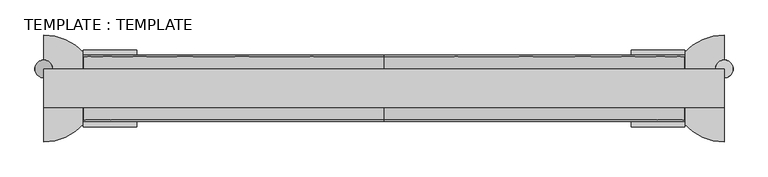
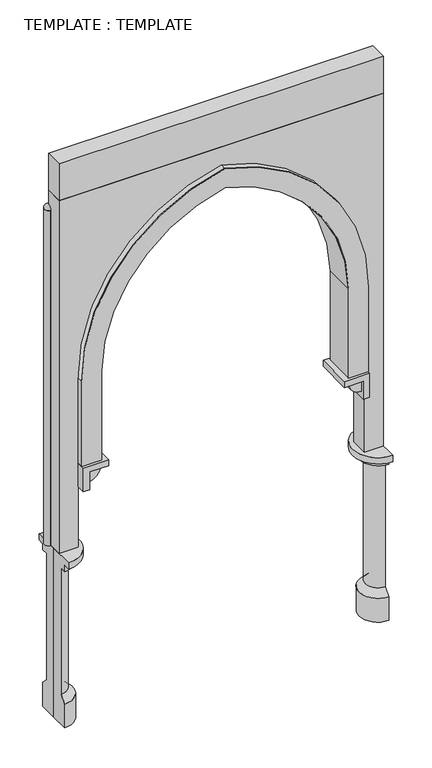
"""IFC4 building model written with IfcOpenShell, lengths in millimetres: plate geometry, TEMPLATE : TEMPLATE."""

from ifc_helpers import new_model, si_unit, point, frame, frame_2d, origin, place, context, project, spatial, polyline, circle_curve, ellipse_curve, trimmed, segment, composite_curve, outline, extrude, source, transform, mapped, element, save
from ifc_brep_helpers import plane_surface, cylinder_surface, revolved_surface, advanced_brep


def template_template_90c3116e(model_context):
    return source(origin(), model_context, "Body", "SolidModel", [
        extrude(outline(polyline([(1250.0, -71.2450521), (-1250.0, -71.2450521), (-1250.0, 71.2450521), (1250.0, 71.2450521), (1250.0, -71.2450521)])), frame((0.0, 0.0, 4250.0), z_axis=(0.0, 0.0, 1.0), x_axis=(1.0, 0.0, 0.0)), (0.0, 0.0, 1.0), 300.0),
        advanced_brep(
        [(-1250.0, 38.7797743, 4103.90625), (-1250.0, 103.7103299, 4103.90625)],
        [
            (0, 1),
            (1, 0, circle_curve(frame((-1250.0, 71.2450521, 4103.90625), z_axis=(0.0, 0.0, -1.0), x_axis=(-1.0, 0.0, 0.0)), 32.4652778)),
            (0, 1, circle_curve(frame((-1250.0, 71.2450521, 4103.90625), z_axis=(0.0, 0.0, -1.0), x_axis=(1.0, 0.0, 0.0)), 32.4652778)),
        ],
        [
            plane_surface(frame((-1250.0, -122.2362565, 4103.90625), z_axis=(0.0, 0.0, -1.0), x_axis=(1.0, 0.0, 0.0))),
            plane_surface(frame((-1250.0, -122.2362565, 4103.90625), z_axis=(0.0, 0.0, -1.0), x_axis=(-1.0, 0.0, 0.0))),
            revolved_surface(trimmed(ellipse_curve(frame((-1250.0, 71.2450521, 4103.90625), z_axis=(0.0, 0.0, 1.0), x_axis=(-1.0, 0.0, 0.0)), 32.4652778, 32.4652778), [point((-1250.0, 38.7797743, 4103.90625))], [point((-1250.0, 103.7103299, 4103.90625))], True, "CARTESIAN"), (-1250.0, -122.2362565, 4103.90625), (0.0, 1.0, 0.0)),
        ],
        [
            (0, [[1, 2]]),
            (1, [[3, -1]]),
            (2, [[-2, -3]]),
        ],
    ),
        extrude(outline(composite_curve([segment(trimmed(circle_curve(frame_2d((-1250.0, 71.2450521)), 32.4652778), [point((-1250.0, 103.7103299))], [point((-1250.0, 38.7797743))], False, "CARTESIAN"), True, "CONTINUOUS"), segment(trimmed(circle_curve(frame_2d((-1250.0, 71.2450521)), 32.4652778), [point((-1250.0, 38.7797743))], [point((-1250.0, 103.7103299))], False, "CARTESIAN"), True, "CONTINUOUS")], self_intersect=False)), frame((0.0, 0.0, 1375.0), z_axis=(0.0, 0.0, 1.0), x_axis=(1.0, 0.0, 0.0)), (0.0, 0.0, 1.0), 2728.90625),
        advanced_brep(
        [(1250.0, 38.7797743, 4103.90625), (1250.0, 103.7103299, 4103.90625)],
        [
            (0, 1, circle_curve(frame((1250.0, 71.2450521, 4103.90625), z_axis=(0.0, 0.0, -1.0), x_axis=(-1.0, 0.0, 0.0)), 32.4652778)),
            (1, 0),
            (1, 0, circle_curve(frame((1250.0, 71.2450521, 4103.90625), z_axis=(0.0, 0.0, -1.0), x_axis=(1.0, 0.0, 0.0)), 32.4652778)),
        ],
        [
            plane_surface(frame((1250.0, -122.2362565, 4103.90625), z_axis=(0.0, 0.0, -1.0), x_axis=(-1.0, 0.0, 0.0))),
            plane_surface(frame((1250.0, -122.2362565, 4103.90625), z_axis=(0.0, 0.0, -1.0), x_axis=(1.0, 0.0, 0.0))),
            revolved_surface(trimmed(ellipse_curve(frame((1250.0, 71.2450521, 4103.90625), z_axis=(0.0, 0.0, 1.0), x_axis=(-1.0, 0.0, 0.0)), 32.4652778, 32.4652778), [point((1250.0, 103.7103299, 4103.90625))], [point((1250.0, 38.7797743, 4103.90625))], True, "CARTESIAN"), (1250.0, -122.2362565, 4103.90625), (0.0, -1.0, 0.0)),
        ],
        [
            (0, [[1, 2]]),
            (1, [[3, -2]]),
            (2, [[-1, -3]]),
        ],
    ),
        extrude(outline(composite_curve([segment(trimmed(circle_curve(frame_2d((1250.0, 71.2450521)), 32.4652778), [point((1250.0, 103.7103299))], [point((1250.0, 38.7797743))], False, "CARTESIAN"), True, "CONTINUOUS"), segment(trimmed(circle_curve(frame_2d((1250.0, 71.2450521)), 32.4652778), [point((1250.0, 38.7797743))], [point((1250.0, 103.7103299))], False, "CARTESIAN"), True, "CONTINUOUS")], self_intersect=False)), frame((0.0, 0.0, 1375.0), z_axis=(0.0, 0.0, 1.0), x_axis=(1.0, 0.0, 0.0)), (0.0, 0.0, 1.0), 2728.90625),
        extrude(outline(composite_curve([segment(polyline([(2062.5, -1103.90625), (2062.5, -952.8125), (2789.7201638, -952.8125)]), True, "CONTINUOUS"), segment(trimmed(circle_curve(frame_2d((2770.9553186, 249.8536177)), 1202.8125), [point((2789.7201638, -952.8125))], [point((3947.5313169, 0.0))], True, "CARTESIAN"), True, "CONTINUOUS"), segment(trimmed(circle_curve(frame_2d((2770.9553186, -249.8536177)), 1202.8125), [point((3947.5313169, 0.0))], [point((2789.7201638, 952.8125))], True, "CARTESIAN"), True, "CONTINUOUS"), segment(polyline([(2789.7201638, 952.8125), (2062.5, 952.8125), (2062.5, 1103.90625), (2751.0466695, 1103.90625)]), True, "CONTINUOUS"), segment(trimmed(circle_curve(frame_2d((2770.9553186, -249.8536177)), 1353.90625), [point((2751.0466695, 1103.90625))], [point((4101.6075284, 0.0))], False, "CARTESIAN"), True, "CONTINUOUS"), segment(trimmed(circle_curve(frame_2d((2770.9553186, 249.8536177)), 1353.90625), [point((4101.6075284, 0.0))], [point((2751.0466695, -1103.90625))], False, "CARTESIAN"), True, "CONTINUOUS"), segment(polyline([(2751.0466695, -1103.90625), (2062.5, -1103.90625)]), True, "CONTINUOUS")], self_intersect=False)), frame((0.0, -121.8675781, 0.0), z_axis=(0.0, 1.0, 0.0), x_axis=(0.0, 0.0, 1.0)), (0.0, 0.0, 1.0), 5.0),
        extrude(outline(composite_curve([segment(trimmed(circle_curve(frame_2d((2770.9553186, -249.8536177)), 1207.8125), [point((2789.7591277, 957.8125))], [point((3952.642335, 0.0))], False, "CARTESIAN"), True, "CONTINUOUS"), segment(trimmed(circle_curve(frame_2d((2770.9553186, 249.8536177)), 1207.8125), [point((3952.642335, 0.0))], [point((2789.7591277, -957.8125))], False, "CARTESIAN"), True, "CONTINUOUS"), segment(polyline([(2789.7591277, -957.8125), (2789.6812853, -952.813106)]), True, "CONTINUOUS"), segment(trimmed(circle_curve(frame_2d((2770.9553186, 249.8536177)), 1202.8125), [point((2789.6812853, -952.813106))], [point((3947.5313169, 0.0))], True, "CARTESIAN"), True, "CONTINUOUS"), segment(trimmed(circle_curve(frame_2d((2770.9553186, -249.8536177)), 1202.8125), [point((3947.5313169, 0.0))], [point((2789.6812853, 952.813106))], True, "CARTESIAN"), True, "CONTINUOUS"), segment(polyline([(2789.6812853, 952.813106), (2789.7591277, 957.8125)]), True, "CONTINUOUS")], self_intersect=False)), frame((0.0, -116.8675781, 0.0), z_axis=(0.0, 1.0, 0.0), x_axis=(0.0, 0.0, 1.0)), (0.0, 0.0, 1.0), 238.7351563),
        extrude(outline(polyline([(957.8125, -116.8675781), (952.8125, -116.8675781), (952.8125, 121.8675781), (957.8125, 121.8675781), (957.8125, -116.8675781)])), frame((0.0, 0.0, 2062.5), z_axis=(0.0, 0.0, 1.0), x_axis=(1.0, 0.0, 0.0)), (0.0, 0.0, 1.0), 727.2591277),
        extrude(outline(polyline([(-952.8125, -116.8675781), (-957.8125, -116.8675781), (-957.8125, 121.8675781), (-952.8125, 121.8675781), (-952.8125, -116.8675781)])), frame((0.0, 0.0, 2062.5), z_axis=(0.0, 0.0, 1.0), x_axis=(1.0, 0.0, 0.0)), (0.0, 0.0, 1.0), 727.2591277),
        extrude(outline(composite_curve([segment(polyline([(2013.8020833, 1055.2083333), (2013.8020833, 957.8125)]), True, "CONTINUOUS"), segment(trimmed(circle_curve(frame_2d((2013.8020833, 1055.2083333)), 97.3958333), [point((2013.8020833, 957.8125))], [point((1916.40625, 1055.2083333))], False, "CARTESIAN"), True, "CONTINUOUS"), segment(polyline([(1916.40625, 1055.2083333), (2013.8020833, 1055.2083333)]), True, "CONTINUOUS")], self_intersect=False)), frame((0.0, -116.8675781, 0.0), z_axis=(0.0, 1.0, 0.0), x_axis=(0.0, 0.0, 1.0)), (0.0, 0.0, 1.0), 238.7351562),
        extrude(outline(composite_curve([segment(polyline([(2013.8020833, -1055.2083333), (1916.40625, -1055.2083333)]), True, "CONTINUOUS"), segment(trimmed(circle_curve(frame_2d((2013.8020833, -1055.2083333)), 97.3958333), [point((1916.40625, -1055.2083333))], [point((2013.8020833, -957.8125))], False, "CARTESIAN"), True, "CONTINUOUS"), segment(polyline([(2013.8020833, -957.8125), (2013.8020833, -1055.2083333)]), True, "CONTINUOUS")], self_intersect=False)), frame((0.0, -116.8675781, 0.0), z_axis=(0.0, 1.0, 0.0), x_axis=(0.0, 0.0, 1.0)), (0.0, 0.0, 1.0), 238.7351562),
        advanced_brep(
        [(-1250.0, -196.7395833, 1375.0), (-1250.0, 0.0, 1375.0), (-1250.0, 0.0, 0.0), (-1250.0, -146.09375, 0.0), (-1250.0, -146.09375, 194.7916667), (-1250.0, -97.3958333, 245.4375), (-1250.0, -97.3958333, 1273.7083333), (-1250.0, -146.09375, 1273.7083333), (-1250.0, -146.09375, 1324.3541667), (-1250.0, -196.7395833, 1324.3541667), (-1250.0, 196.7395833, 1375.0), (-1250.0, 196.7395833, 1324.3541667), (-1250.0, 146.09375, 1324.3541667), (-1250.0, 146.09375, 1273.7083333), (-1250.0, 97.3958333, 1273.7083333), (-1250.0, 97.3958333, 245.4375), (-1250.0, 146.09375, 194.7916667), (-1250.0, 146.09375, 0.0)],
        [
            (0, 1),
            (1, 2),
            (2, 3),
            (3, 4),
            (4, 5),
            (5, 6),
            (6, 7),
            (7, 8),
            (8, 9),
            (9, 0),
            (10, 11),
            (11, 12),
            (12, 13),
            (13, 14),
            (14, 15),
            (15, 16),
            (16, 17),
            (17, 2),
            (1, 10),
            (10, 0, circle_curve(frame((-1250.0, 0.0, 1375.0), z_axis=(0.0, 0.0, -1.0), x_axis=(0.0, -1.0000000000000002, 0.0)), 196.7395833)),
            (9, 11, circle_curve(frame((-1250.0, 0.0, 1324.3541667), z_axis=(0.0, 0.0, 1.0), x_axis=(0.0, -1.0000000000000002, 0.0)), 196.7395833)),
            (8, 12, circle_curve(frame((-1250.0, 0.0, 1324.3541667), z_axis=(0.0, 0.0, 1.0), x_axis=(0.0, -1.0000000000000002, 0.0)), 146.09375)),
            (7, 13, circle_curve(frame((-1250.0, 0.0, 1273.7083333), z_axis=(0.0, 0.0, 1.0), x_axis=(0.0, -1.0000000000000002, 0.0)), 146.09375)),
            (6, 14, circle_curve(frame((-1250.0, 0.0, 1273.7083333), z_axis=(0.0, 0.0, 1.0), x_axis=(0.0, -1.0000000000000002, 0.0)), 97.3958333)),
            (5, 15, circle_curve(frame((-1250.0, 0.0, 245.4375), z_axis=(0.0, 0.0, 1.0), x_axis=(0.0, -1.0000000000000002, 0.0)), 97.3958333)),
            (4, 16, circle_curve(frame((-1250.0, 0.0, 194.7916667), z_axis=(0.0, 0.0, 1.0), x_axis=(0.0, -1.0000000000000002, 0.0)), 146.09375)),
            (3, 17, circle_curve(frame((-1250.0, 0.0, 0.0), z_axis=(0.0, 0.0, 1.0), x_axis=(0.0, -1.0000000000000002, 0.0)), 146.09375)),
        ],
        [
            plane_surface(frame((-1250.0, 0.0, -1400.0), z_axis=(-1.0, 0.0, 0.0), x_axis=(0.0, -1.0, 0.0))),
            plane_surface(frame((-1250.0, 0.0, -1400.0), z_axis=(-1.0, 0.0, 0.0), x_axis=(0.0, 1.0, 0.0))),
            cylinder_surface(frame((-1250.0, 0.0, -1400.0), z_axis=(0.0, 0.0, 1.0), x_axis=(0.0, -1.0000000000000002, 0.0)), 196.7395833),
            plane_surface(frame((-1250.0, 0.0, 1324.3541667), z_axis=(0.0, 0.0, -1.0), x_axis=(0.0, -1.0, 0.0))),
            cylinder_surface(frame((-1250.0, 0.0, -1400.0), z_axis=(0.0, 0.0, 1.0), x_axis=(0.0, -1.0000000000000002, 0.0)), 146.09375),
            plane_surface(frame((-1250.0, 0.0, 1273.7083333), z_axis=(0.0, 0.0, -1.0), x_axis=(0.0, -1.0, 0.0))),
            cylinder_surface(frame((-1250.0, 0.0, -1400.0), z_axis=(0.0, 0.0, 1.0), x_axis=(0.0, -1.0000000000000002, 0.0)), 97.3958333),
            revolved_surface(polyline([(-1250.0, -146.09375, 194.7916667), (-1250.0, -97.3958333, 245.4375)]), (-1250.0, 0.0, -1400.0), (0.0, 0.0, 1.0)),
            plane_surface(frame((-1250.0, 0.0, 0.0), z_axis=(0.0, 0.0, -1.0), x_axis=(0.0, -1.0, 0.0))),
            plane_surface(frame((-1250.0, 0.0, 1375.0), z_axis=(0.0, 0.0, 1.0), x_axis=(0.0, -1.0, 0.0))),
        ],
        [
            (0, [[1, 2, 3, 4, 5, 6, 7, 8, 9, 10]]),
            (1, [[11, 12, 13, 14, 15, 16, 17, 18, -2, 19]]),
            (2, [[20, -10, 21, -11]]),
            (3, [[-21, -9, 22, -12]]),
            (4, [[-22, -8, 23, -13]]),
            (5, [[-23, -7, 24, -14]]),
            (6, [[-24, -6, 25, -15]]),
            (7, [[-25, -5, 26, -16]]),
            (4, [[-26, -4, 27, -17]]),
            (8, [[-27, -3, -18]]),
            (9, [[-1, -20, -19]]),
        ],
    ),
        extrude(outline(polyline([(2062.5, 1103.90625), (2062.5, 909.1145833), (2013.8020833, 909.1145833), (2013.8020833, 1055.2083333), (1867.7083333, 1055.2083333), (1867.7083333, 1103.90625), (2062.5, 1103.90625)])), frame((0.0, -141.2165365, 0.0), z_axis=(0.0, 1.0, 0.0), x_axis=(0.0, 0.0, 1.0)), (0.0, 0.0, 1.0), 282.4330729),
        extrude(outline(polyline([(2062.5, -1103.90625), (1867.7083333, -1103.90625), (1867.7083333, -1055.2083333), (2013.8020833, -1055.2083333), (2013.8020833, -909.1145833), (2062.5, -909.1145833), (2062.5, -1103.90625)])), frame((0.0, -141.2165365, 0.0), z_axis=(0.0, 1.0, 0.0), x_axis=(0.0, 0.0, 1.0)), (0.0, 0.0, 1.0), 282.4330729),
        advanced_brep(
        [(1250.0, -196.7395833, 1375.0), (1250.0, -196.7395833, 1324.3541667), (1250.0, -146.09375, 1324.3541667), (1250.0, -146.09375, 1273.7083333), (1250.0, -97.3958333, 1273.7083333), (1250.0, -97.3958333, 245.4375), (1250.0, -146.09375, 194.7916667), (1250.0, -146.09375, 0.0), (1250.0, 0.0, 0.0), (1250.0, 0.0, 1375.0), (1250.0, 196.7395833, 1375.0), (1250.0, 146.09375, 0.0), (1250.0, 146.09375, 194.7916667), (1250.0, 97.3958333, 245.4375), (1250.0, 97.3958333, 1273.7083333), (1250.0, 146.09375, 1273.7083333), (1250.0, 146.09375, 1324.3541667), (1250.0, 196.7395833, 1324.3541667)],
        [
            (0, 1),
            (1, 2),
            (2, 3),
            (3, 4),
            (4, 5),
            (5, 6),
            (6, 7),
            (7, 8),
            (8, 9),
            (9, 0),
            (10, 9),
            (8, 11),
            (11, 12),
            (12, 13),
            (13, 14),
            (14, 15),
            (15, 16),
            (16, 17),
            (17, 10),
            (17, 1, circle_curve(frame((1250.0, 0.0, 1324.3541667), z_axis=(0.0, 0.0, 1.0), x_axis=(0.0, -1.0000000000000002, 0.0)), 196.7395833)),
            (0, 10, circle_curve(frame((1250.0, 0.0, 1375.0), z_axis=(0.0, 0.0, -1.0), x_axis=(0.0, -1.0000000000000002, 0.0)), 196.7395833)),
            (16, 2, circle_curve(frame((1250.0, 0.0, 1324.3541667), z_axis=(0.0, 0.0, 1.0), x_axis=(0.0, -1.0000000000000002, 0.0)), 146.09375)),
            (15, 3, circle_curve(frame((1250.0, 0.0, 1273.7083333), z_axis=(0.0, 0.0, 1.0), x_axis=(0.0, -1.0000000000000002, 0.0)), 146.09375)),
            (14, 4, circle_curve(frame((1250.0, 0.0, 1273.7083333), z_axis=(0.0, 0.0, 1.0), x_axis=(0.0, -1.0000000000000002, 0.0)), 97.3958333)),
            (13, 5, circle_curve(frame((1250.0, 0.0, 245.4375), z_axis=(0.0, 0.0, 1.0), x_axis=(0.0, -1.0000000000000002, 0.0)), 97.3958333)),
            (12, 6, circle_curve(frame((1250.0, 0.0, 194.7916667), z_axis=(0.0, 0.0, 1.0), x_axis=(0.0, -1.0000000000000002, 0.0)), 146.09375)),
            (11, 7, circle_curve(frame((1250.0, 0.0, 0.0), z_axis=(0.0, 0.0, 1.0), x_axis=(0.0, -1.0000000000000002, 0.0)), 146.09375)),
        ],
        [
            plane_surface(frame((1250.0, 0.0, -1400.0), z_axis=(1.0, 0.0, 0.0), x_axis=(0.0, -1.0, 0.0))),
            plane_surface(frame((1250.0, 0.0, -1400.0), z_axis=(1.0, 0.0, 0.0), x_axis=(0.0, 1.0, 0.0))),
            cylinder_surface(frame((1250.0, 0.0, -1400.0), z_axis=(0.0, 0.0, -1.0), x_axis=(0.0, -1.0000000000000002, 0.0)), 196.7395833),
            plane_surface(frame((1250.0, 0.0, 1324.3541667), z_axis=(0.0, 0.0, -1.0), x_axis=(0.0, -1.0, 0.0))),
            cylinder_surface(frame((1250.0, 0.0, -1400.0), z_axis=(0.0, 0.0, -1.0), x_axis=(0.0, -1.0000000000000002, 0.0)), 146.09375),
            plane_surface(frame((1250.0, 0.0, 1273.7083333), z_axis=(0.0, 0.0, -1.0), x_axis=(0.0, -1.0, 0.0))),
            cylinder_surface(frame((1250.0, 0.0, -1400.0), z_axis=(0.0, 0.0, -1.0), x_axis=(0.0, -1.0000000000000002, 0.0)), 97.3958333),
            revolved_surface(polyline([(1250.0, -97.3958333, 245.4375), (1250.0, -146.09375, 194.7916667)]), (1250.0, 0.0, -1400.0), (0.0, 0.0, -1.0)),
            plane_surface(frame((1250.0, 0.0, 0.0), z_axis=(0.0, 0.0, -1.0), x_axis=(0.0, -1.0, 0.0))),
            plane_surface(frame((1250.0, 0.0, 1375.0), z_axis=(0.0, 0.0, 1.0), x_axis=(0.0, -1.0, 0.0))),
        ],
        [
            (0, [[1, 2, 3, 4, 5, 6, 7, 8, 9, 10]]),
            (1, [[11, -9, 12, 13, 14, 15, 16, 17, 18, 19]]),
            (2, [[20, -1, 21, -19]]),
            (3, [[22, -2, -20, -18]]),
            (4, [[23, -3, -22, -17]]),
            (5, [[24, -4, -23, -16]]),
            (6, [[25, -5, -24, -15]]),
            (7, [[26, -6, -25, -14]]),
            (4, [[27, -7, -26, -13]]),
            (8, [[-8, -27, -12]]),
            (9, [[-21, -10, -11]]),
        ],
    ),
        extrude(outline(composite_curve([segment(polyline([(1375.0, 1250.0), (4250.0, 1250.0), (4250.0, -1250.0), (1375.0, -1250.0), (1375.0, -1103.90625), (2790.8639676, -1103.90625)]), True, "CONTINUOUS"), segment(trimmed(circle_curve(frame_2d((2770.9553186, 249.8536177)), 1353.90625), [point((2790.8639676, -1103.90625))], [point((4101.6075284, 0.0))], True, "CARTESIAN"), True, "CONTINUOUS"), segment(trimmed(circle_curve(frame_2d((2770.9553186, -249.8536177)), 1353.90625), [point((4101.6075284, 0.0))], [point((2790.8639676, 1103.90625))], True, "CARTESIAN"), True, "CONTINUOUS"), segment(polyline([(2790.8639676, 1103.90625), (1375.0, 1103.90625), (1375.0, 1250.0)]), True, "CONTINUOUS")], self_intersect=False)), frame((0.0, -71.2450521, 0.0), z_axis=(0.0, 1.0, 0.0), x_axis=(0.0, 0.0, 1.0)), (0.0, 0.0, 1.0), 142.4901042),
        extrude(outline(composite_curve([segment(trimmed(circle_curve(frame_2d((2770.9553186, 249.8536177)), 1353.90625), [point((4101.6075284, 0.0))], [point((2790.8639676, -1103.90625))], False, "CARTESIAN"), True, "CONTINUOUS"), segment(polyline([(2790.8639676, -1103.90625), (2062.5, -1103.90625), (2062.5, -957.8125), (2789.7591277, -957.8125)]), True, "CONTINUOUS"), segment(trimmed(circle_curve(frame_2d((2770.9553186, 249.8536177)), 1207.8125), [point((2789.7591277, -957.8125))], [point((3952.642335, 0.0))], True, "CARTESIAN"), True, "CONTINUOUS"), segment(trimmed(circle_curve(frame_2d((2770.9553186, -249.8536177)), 1207.8125), [point((3952.642335, 0.0))], [point((2789.7591277, 957.8125))], True, "CARTESIAN"), True, "CONTINUOUS"), segment(polyline([(2789.7591277, 957.8125), (2062.5, 957.8125), (2062.5, 1103.90625), (2790.8639676, 1103.90625)]), True, "CONTINUOUS"), segment(trimmed(circle_curve(frame_2d((2770.9553186, -249.8536177)), 1353.90625), [point((2790.8639676, 1103.90625))], [point((4101.6075284, 0.0))], False, "CARTESIAN"), True, "CONTINUOUS")], self_intersect=False)), frame((0.0, 116.8675781, 0.0), z_axis=(0.0, 1.0, 0.0), x_axis=(0.0, 0.0, 1.0)), (0.0, 0.0, 1.0), 5.0),
        extrude(outline(polyline([(-957.8125, 116.8675781), (-957.8125, -116.8675781), (-1103.90625, -116.8675781), (-1103.90625, 116.8675781), (-957.8125, 116.8675781)])), frame((0.0, 0.0, 2062.5), z_axis=(0.0, 0.0, 1.0), x_axis=(1.0, 0.0, 0.0)), (0.0, 0.0, 1.0), 687.5),
        extrude(outline(polyline([(957.8125, 116.8675781), (1103.90625, 116.8675781), (1103.90625, -116.8675781), (957.8125, -116.8675781), (957.8125, 116.8675781)])), frame((0.0, 0.0, 2062.5), z_axis=(0.0, 0.0, 1.0), x_axis=(1.0, 0.0, 0.0)), (0.0, 0.0, 1.0), 687.5),
        extrude(outline(composite_curve([segment(trimmed(circle_curve(frame_2d((2770.9553186, 249.8536177)), 1207.8125), [point((2754.0819214, -957.841014))], [point((3952.642335, 0.0))], True, "CARTESIAN"), True, "CONTINUOUS"), segment(trimmed(circle_curve(frame_2d((2770.9553186, -249.8536177)), 1207.8125), [point((3952.642335, 0.0))], [point((2754.0819214, 957.841014))], True, "CARTESIAN"), True, "CONTINUOUS"), segment(polyline([(2754.0819214, 957.841014), (2752.0409607, 1103.920507)]), True, "CONTINUOUS"), segment(trimmed(circle_curve(frame_2d((2770.9553186, -249.8536177)), 1353.90625), [point((2752.0409607, 1103.920507))], [point((4101.6075284, 0.0))], False, "CARTESIAN"), True, "CONTINUOUS"), segment(trimmed(circle_curve(frame_2d((2770.9553186, 249.8536177)), 1353.90625), [point((4101.6075284, 0.0))], [point((2752.0409607, -1103.920507))], False, "CARTESIAN"), True, "CONTINUOUS"), segment(polyline([(2752.0409607, -1103.920507), (2754.0819214, -957.841014)]), True, "CONTINUOUS")], self_intersect=False)), frame((0.0, -116.8675781, 0.0), z_axis=(0.0, 1.0, 0.0), x_axis=(0.0, 0.0, 1.0)), (0.0, 0.0, 1.0), 233.7351562),
    ])


if __name__ == "__main__":
    model = new_model("IFC4")
    model_context = context("Model", 3, world=origin())
    ifc_project = project(units=[si_unit("LENGTHUNIT", "METRE", prefix="MILLI")], contexts=[model_context])
    site = spatial("IfcSite", under=ifc_project)
    building = spatial("IfcBuilding", under=site)
    placement = place(None, origin())
    template_template_shape = template_template_90c3116e(model_context)
    element("IfcPlate", 1, ObjectType="TEMPLATE : TEMPLATE", at=placement, inside=building, context=model_context, shape_type="MappedRepresentation", body=[
        mapped(template_template_shape, transform((0.0, 0.0, 0.0), x_axis=(1.0, 0.0, 0.0), y_axis=(0.0, 1.0, 0.0), z_axis=(0.0, 0.0, 1.0))),
    ])
    save(model, "model.ifc")
